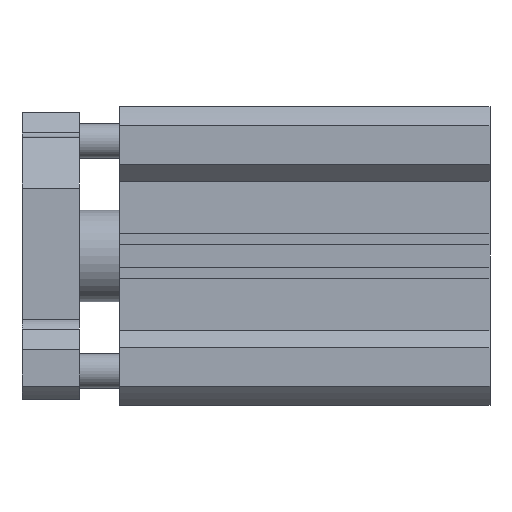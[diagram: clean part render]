
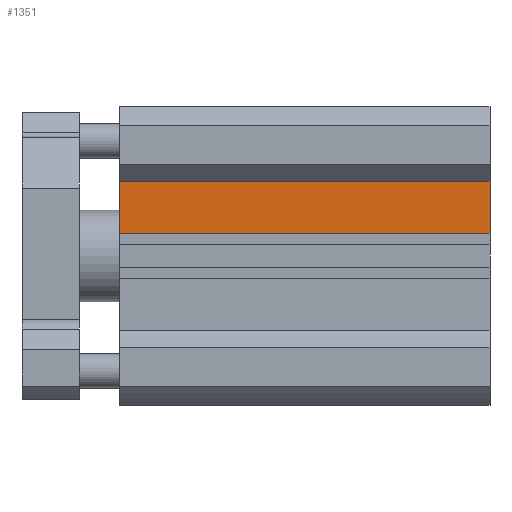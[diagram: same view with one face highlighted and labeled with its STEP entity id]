
A CAD part, front view. The second image highlights one B-rep face of the part: STEP entity #1351.
In plain terms, the highlighted planar face has unit normal (0, -1, 0).
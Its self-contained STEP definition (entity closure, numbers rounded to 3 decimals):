
#273 = EDGE_CURVE ( 'NONE', #2957, #1361, #2240, .T. ) ;
#386 = DIRECTION ( 'NONE',  ( -1., 0., 0. ) ) ;
#400 = VERTEX_POINT ( 'NONE', #2806 ) ;
#445 = EDGE_CURVE ( 'NONE', #4233, #2957, #1665, .T. ) ;
#513 = CARTESIAN_POINT ( 'NONE',  ( 64.5, -23., 13. ) ) ;
#851 = CARTESIAN_POINT ( 'NONE',  ( 64.5, -23., 4. ) ) ;
#1116 = DIRECTION ( 'NONE',  ( 1., 0., 0. ) ) ;
#1167 = CARTESIAN_POINT ( 'NONE',  ( 64.5, -23., 13. ) ) ;
#1221 = VECTOR ( 'NONE', #386, 1000. ) ;
#1351 = ADVANCED_FACE ( 'NONE', ( #2486 ), #4061, .F. ) ;
#1361 = VERTEX_POINT ( 'NONE', #2697 ) ;
#1375 = CARTESIAN_POINT ( 'NONE',  ( 0., -23., 13. ) ) ;
#1494 = ORIENTED_EDGE ( 'NONE', *, *, #273, .F. ) ;
#1665 = LINE ( 'NONE', #2755, #1986 ) ;
#1808 = AXIS2_PLACEMENT_3D ( 'NONE', #513, #5007, #1116 ) ;
#1854 = CARTESIAN_POINT ( 'NONE',  ( 64.5, -23., 4. ) ) ;
#1986 = VECTOR ( 'NONE', #4800, 1000. ) ;
#2240 = LINE ( 'NONE', #1854, #2896 ) ;
#2266 = DIRECTION ( 'NONE',  ( -1., 0., 0. ) ) ;
#2359 = LINE ( 'NONE', #1167, #1221 ) ;
#2486 = FACE_OUTER_BOUND ( 'NONE', #4449, .T. ) ;
#2570 = LINE ( 'NONE', #1375, #4343 ) ;
#2603 = ORIENTED_EDGE ( 'NONE', *, *, #445, .F. ) ;
#2614 = EDGE_CURVE ( 'NONE', #400, #1361, #2570, .T. ) ;
#2697 = CARTESIAN_POINT ( 'NONE',  ( 0., -23., 4. ) ) ;
#2755 = CARTESIAN_POINT ( 'NONE',  ( 64.5, -23., 13. ) ) ;
#2806 = CARTESIAN_POINT ( 'NONE',  ( 0., -23., 13. ) ) ;
#2840 = EDGE_CURVE ( 'NONE', #4233, #400, #2359, .T. ) ;
#2896 = VECTOR ( 'NONE', #2266, 1000. ) ;
#2957 = VERTEX_POINT ( 'NONE', #851 ) ;
#3018 = DIRECTION ( 'NONE',  ( 0., 0., -1. ) ) ;
#3465 = ORIENTED_EDGE ( 'NONE', *, *, #2840, .T. ) ;
#3781 = ORIENTED_EDGE ( 'NONE', *, *, #2614, .T. ) ;
#4061 = PLANE ( 'NONE',  #1808 ) ;
#4233 = VERTEX_POINT ( 'NONE', #4614 ) ;
#4343 = VECTOR ( 'NONE', #3018, 1000. ) ;
#4449 = EDGE_LOOP ( 'NONE', ( #3781, #1494, #2603, #3465 ) ) ;
#4614 = CARTESIAN_POINT ( 'NONE',  ( 64.5, -23., 13. ) ) ;
#4800 = DIRECTION ( 'NONE',  ( 0., 0., -1. ) ) ;
#5007 = DIRECTION ( 'NONE',  ( 0., 1., 0. ) ) ;
